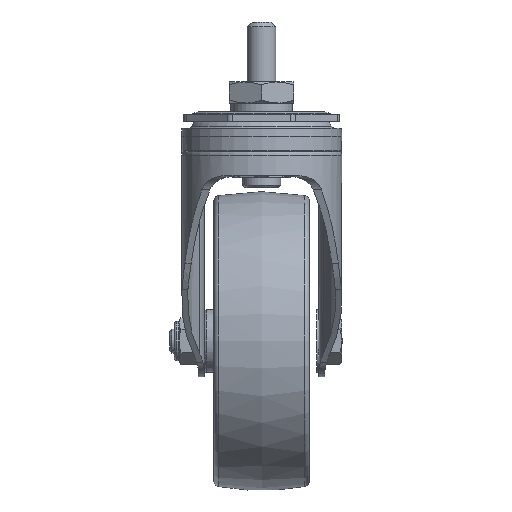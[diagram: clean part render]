
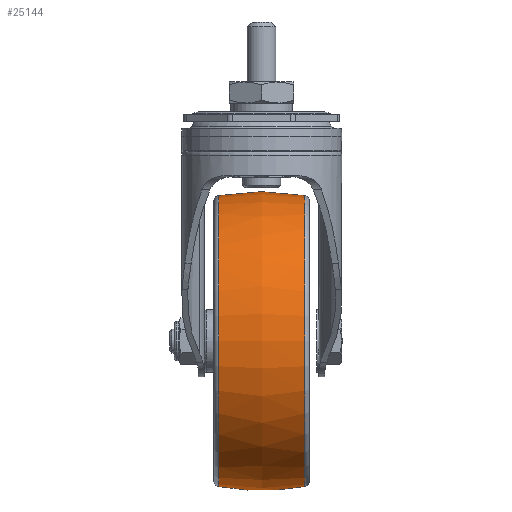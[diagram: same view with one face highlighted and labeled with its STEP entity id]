
A CAD part, left-side view. The second image highlights one B-rep face of the part: STEP entity #25144.
In plain terms, the highlighted free-form (B-spline) face has degree [2, 2] with [3, 9] control points.
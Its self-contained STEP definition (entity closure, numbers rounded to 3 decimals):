
#15=(
BOUNDED_SURFACE()
B_SPLINE_SURFACE(2,2,((#44003,#44004,#44005,#44006,#44007,#44008,#44009,
#44010,#44011),(#44012,#44013,#44014,#44015,#44016,#44017,#44018,#44019,
#44020),(#44021,#44022,#44023,#44024,#44025,#44026,#44027,#44028,#44029)),
 .UNSPECIFIED.,.F.,.T.,.F.)
B_SPLINE_SURFACE_WITH_KNOTS((3,3),(3,2,2,2,3),(-0.18,0.18),
(-3.142,-1.571,0.,1.571,3.142),
 .UNSPECIFIED.)
GEOMETRIC_REPRESENTATION_ITEM()
RATIONAL_B_SPLINE_SURFACE(((1.,0.707,1.,0.707,1.,
0.707,1.,0.707,1.),(0.984,0.696,
0.984,0.696,0.984,0.696,
0.984,0.696,0.984),(1.,0.707,
1.,0.707,1.,0.707,1.,0.707,1.)))
REPRESENTATION_ITEM('')
SURFACE()
);
#7331=FACE_OUTER_BOUND('',#8802,.T.);
#8802=EDGE_LOOP('',(#23681,#23682,#23683,#23684));
#9137=CIRCLE('',#26404,60.876);
#9139=CIRCLE('',#26406,60.876);
#9140=CIRCLE('',#26407,100.);
#12615=VERTEX_POINT('',#44000);
#12616=VERTEX_POINT('',#44030);
#16307=EDGE_CURVE('',#12615,#12615,#9137,.T.);
#16309=EDGE_CURVE('',#12616,#12616,#9139,.T.);
#16310=EDGE_CURVE('',#12616,#12615,#9140,.T.);
#23681=ORIENTED_EDGE('',*,*,#16309,.F.);
#23682=ORIENTED_EDGE('',*,*,#16310,.T.);
#23683=ORIENTED_EDGE('',*,*,#16307,.T.);
#23684=ORIENTED_EDGE('',*,*,#16310,.F.);
#25144=ADVANCED_FACE('',(#7331),#15,.F.);
#26404=AXIS2_PLACEMENT_3D('',#44001,#31120,#31121);
#26406=AXIS2_PLACEMENT_3D('',#44031,#31124,#31125);
#26407=AXIS2_PLACEMENT_3D('',#44032,#31126,#31127);
#31120=DIRECTION('center_axis',(0.,-1.,0.));
#31121=DIRECTION('ref_axis',(0.,0.,
1.));
#31124=DIRECTION('center_axis',(0.,-1.,0.));
#31125=DIRECTION('ref_axis',(0.,0.,
1.));
#31126=DIRECTION('center_axis',(1.,0.,0.));
#31127=DIRECTION('ref_axis',(0.,0.,
-1.));
#44000=CARTESIAN_POINT('',(32.,17.949,-157.176));
#44001=CARTESIAN_POINT('Origin',(32.,17.949,-96.3));
#44003=CARTESIAN_POINT('Ctrl Pts',(32.,17.949,-157.176));
#44004=CARTESIAN_POINT('Ctrl Pts',(92.876,17.949,-157.176));
#44005=CARTESIAN_POINT('Ctrl Pts',(92.876,17.949,-96.3));
#44006=CARTESIAN_POINT('Ctrl Pts',(92.876,17.949,-35.424));
#44007=CARTESIAN_POINT('Ctrl Pts',(32.,17.949,-35.424));
#44008=CARTESIAN_POINT('Ctrl Pts',(-28.876,17.949,-35.424));
#44009=CARTESIAN_POINT('Ctrl Pts',(-28.876,17.949,-96.3));
#44010=CARTESIAN_POINT('Ctrl Pts',(-28.876,17.949,-157.176));
#44011=CARTESIAN_POINT('Ctrl Pts',(32.,17.949,-157.176));
#44012=CARTESIAN_POINT('Ctrl Pts',(32.,0.,
-160.451));
#44013=CARTESIAN_POINT('Ctrl Pts',(96.151,0.,
-160.451));
#44014=CARTESIAN_POINT('Ctrl Pts',(96.151,0.,
-96.3));
#44015=CARTESIAN_POINT('Ctrl Pts',(96.151,0.,
-32.149));
#44016=CARTESIAN_POINT('Ctrl Pts',(32.,0.,
-32.149));
#44017=CARTESIAN_POINT('Ctrl Pts',(-32.151,0.,
-32.149));
#44018=CARTESIAN_POINT('Ctrl Pts',(-32.151,0.,
-96.3));
#44019=CARTESIAN_POINT('Ctrl Pts',(-32.151,0.,
-160.451));
#44020=CARTESIAN_POINT('Ctrl Pts',(32.,0.,
-160.451));
#44021=CARTESIAN_POINT('Ctrl Pts',(32.,-17.949,-157.176));
#44022=CARTESIAN_POINT('Ctrl Pts',(92.876,-17.949,-157.176));
#44023=CARTESIAN_POINT('Ctrl Pts',(92.876,-17.949,-96.3));
#44024=CARTESIAN_POINT('Ctrl Pts',(92.876,-17.949,-35.424));
#44025=CARTESIAN_POINT('Ctrl Pts',(32.,-17.949,-35.424));
#44026=CARTESIAN_POINT('Ctrl Pts',(-28.876,-17.949,
-35.424));
#44027=CARTESIAN_POINT('Ctrl Pts',(-28.876,-17.949,
-96.3));
#44028=CARTESIAN_POINT('Ctrl Pts',(-28.876,-17.949,-157.176));
#44029=CARTESIAN_POINT('Ctrl Pts',(32.,-17.949,-157.176));
#44030=CARTESIAN_POINT('',(32.,-17.949,-157.176));
#44031=CARTESIAN_POINT('Origin',(32.,-17.949,-96.3));
#44032=CARTESIAN_POINT('Origin',(32.,0.,-58.8));
